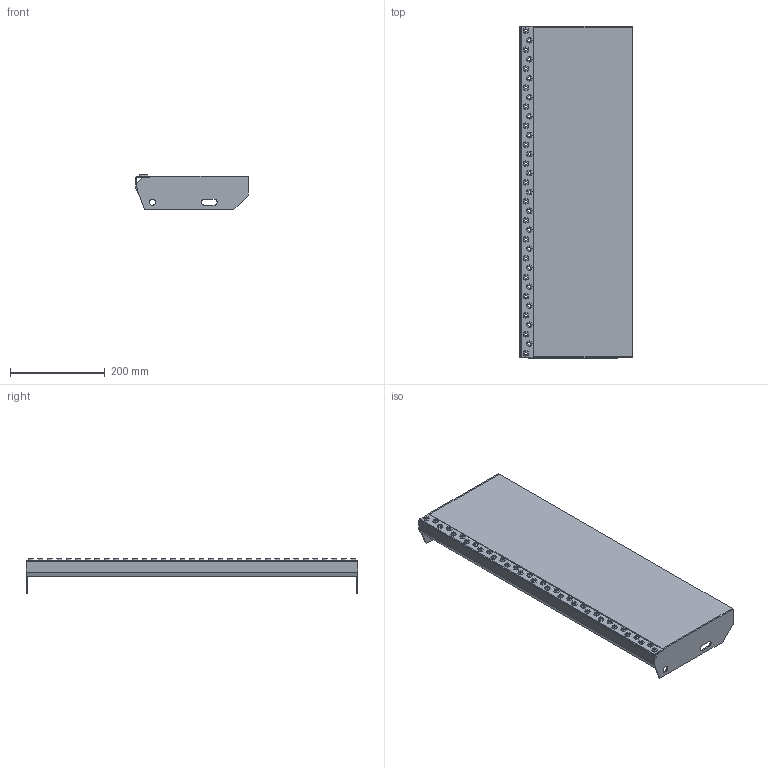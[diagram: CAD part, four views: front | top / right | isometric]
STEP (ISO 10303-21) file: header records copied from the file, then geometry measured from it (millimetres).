
FILE_DESCRIPTION(('Open CASCADE Model'),'2;1');
FILE_NAME('Open CASCADE Shape Model','2019-03-13T09:52:38',('Author'),( 'Open CASCADE'),'Open CASCADE STEP processor 7.2','Open CASCADE 7.2' ,'Unknown');
FILE_SCHEMA(('AUTOMOTIVE_DESIGN { 1 0 10303 214 1 1 1 1 }'));
Length unit declared in the file: millimetre
Products named in the file (1105): Open CASCADE STEP translator 7.2 1; Open CASCADE STEP translator 7.2 2; Open CASCADE STEP translator 7.2 3; Open CASCADE STEP translator 7.2 3.1; Open CASCADE STEP translator 7.2 3.2; Open CASCADE STEP translator 7.2 3.3; Open CASCADE STEP translator 7.2 3.4; Open CASCADE STEP translator 7.2 3.5; Open CASCADE STEP translator 7.2 3.6; Open CASCADE STEP translator 7.2 3.7; Open CASCADE STEP translator 7.2 3.8; Open CASCADE STEP translator 7.2 3.9; Open CASCADE STEP translator 7.2 3.10; Open CASCADE STEP translator 7.2 3.11; Open CASCADE STEP translator 7.2 3.12; Open CASCADE STEP translator 7.2 3.13; Open CASCADE STEP translator 7.2 3.14; Open CASCADE STEP translator 7.2 3.15; Open CASCADE STEP translator 7.2 3.16; Open CASCADE STEP translator 7.2 3.17; Open CASCADE STEP translator 7.2 3.18; Open CASCADE STEP translator 7.2 3.19; Open CASCADE STEP translator 7.2 3.20; Open CASCADE STEP translator 7.2 3.21; Open CASCADE STEP translator 7.2 3.22; Open CASCADE STEP translator 7.2 3.23; Open CASCADE STEP translator 7.2 3.24; Open CASCADE STEP translator 7.2 3.25; Open CASCADE STEP translator 7.2 3.26; Open CASCADE STEP translator 7.2 3.27; Open CASCADE STEP translator 7.2 3.28; Open CASCADE STEP translator 7.2 3.29; Open CASCADE STEP translator 7.2 3.30; Open CASCADE STEP translator 7.2 3.31; Open CASCADE STEP translator 7.2 3.32; Open CASCADE STEP translator 7.2 3.33; Open CASCADE STEP translator 7.2 3.34; Open CASCADE STEP translator 7.2 3.35; Open CASCADE STEP translator 7.2 3.36; Open CASCADE STEP translator 7.2 3.37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
Assembly tree (1101 placements, depth 2):
  Open CASCADE STEP translator 7.2 1
  Open CASCADE STEP translator 7.2 2
  Open CASCADE STEP translator 7.2 3
    Open CASCADE STEP translator 7.2 3.1
    Open CASCADE STEP translator 7.2 3.2
    Open CASCADE STEP translator 7.2 3.3
    Open CASCADE STEP translator 7.2 3.4
    Open CASCADE STEP translator 7.2 3.5
    Open CASCADE STEP translator 7.2 3.6
    Open CASCADE STEP translator 7.2 3.7
    Open CASCADE STEP translator 7.2 3.8
    Open CASCADE STEP translator 7.2 3.9
    Open CASCADE STEP translator 7.2 3.10
    Open CASCADE STEP translator 7.2 3.11
    Open CASCADE STEP translator 7.2 3.12
    Open CASCADE STEP translator 7.2 3.13
    Open CASCADE STEP translator 7.2 3.14
    Open CASCADE STEP translator 7.2 3.15
    Open CASCADE STEP translator 7.2 3.16
    Open CASCADE STEP translator 7.2 3.17
    Open CASCADE STEP translator 7.2 3.18
    Open CASCADE STEP translator 7.2 3.19
    Open CASCADE STEP translator 7.2 3.20
    Open CASCADE STEP translator 7.2 3.21
    Open CASCADE STEP translator 7.2 3.22
    Open CASCADE STEP translator 7.2 3.23
    Open CASCADE STEP translator 7.2 3.24
    Open CASCADE STEP translator 7.2 3.25
    Open CASCADE STEP translator 7.2 3.26
    Open CASCADE STEP translator 7.2 3.27
    Open CASCADE STEP translator 7.2 3.28
    Open CASCADE STEP translator 7.2 3.29
    Open CASCADE STEP translator 7.2 3.30
    Open CASCADE STEP translator 7.2 3.31
    Open CASCADE STEP translator 7.2 3.32
    Open CASCADE STEP translator 7.2 3.33
    Open CASCADE STEP translator 7.2 3.34
    Open CASCADE STEP translator 7.2 3.35
    Open CASCADE STEP translator 7.2 3.36
    Open CASCADE STEP translator 7.2 3.37
    Open CASCADE STEP translator 7.2 3.38
    Open CASCADE STEP translator 7.2 3.39
    Open CASCADE STEP translator 7.2 3.40
    Open CASCADE STEP translator 7.2 3.41
    Open CASCADE STEP translator 7.2 3.42
    Open CASCADE STEP translator 7.2 3.43
    Open CASCADE STEP translator 7.2 3.44
    Open CASCADE STEP translator 7.2 3.45
    Open CASCADE STEP translator 7.2 3.46
    Open CASCADE STEP translator 7.2 3.47
    Open CASCADE STEP translator 7.2 3.48
    Open CASCADE STEP translator 7.2 3.49
    Open CASCADE STEP translator 7.2 3.50
    Open CASCADE STEP translator 7.2 3.51
    Open CASCADE STEP translator 7.2 3.52
    Open CASCADE STEP translator 7.2 3.53
    Open CASCADE STEP translator 7.2 3.54
    Open CASCADE STEP translator 7.2 3.55
    Open CASCADE STEP translator 7.2 3.56
    Open CASCADE STEP translator 7.2 3.57
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Bounding box: 237 x 700 x 73 mm (x, y, z)
Volume: 3689921.2 mm3; surface area: 488705.2 mm2
Topology: 3 solids, 1104 shells, 1139 faces, 6060 edges, 6028 vertices
Faces by surface type: plane 1133, cylinder 6
Full cylindrical faces by diameter (mm): 13 x2
Entity records: 123082 total; most frequent: CARTESIAN_POINT 20581, DIRECTION 16674, LINE 12168, VECTOR 12168, ORIENTED_EDGE 6156, PCURVE 6156, DEFINITIONAL_REPRESENTATION 6156, EDGE_CURVE 6060
